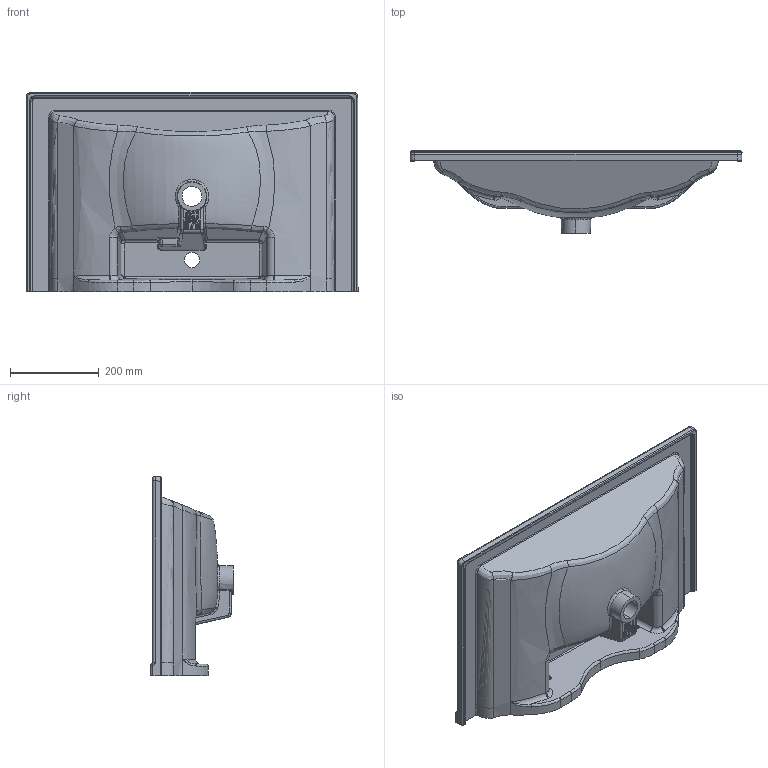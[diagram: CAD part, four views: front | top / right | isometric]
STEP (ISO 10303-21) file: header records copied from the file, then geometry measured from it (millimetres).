
FILE_DESCRIPTION (( 'STEP AP203' ), '1' );
FILE_NAME ('SU075.STEP', '2022-04-14T12:42:16', ( '' ), ( '' ), 'SwSTEP 2.0', 'SolidWorks 2021', '' );
FILE_SCHEMA (( 'CONFIG_CONTROL_DESIGN' ));
Products named in the file (1): SU075
Bounding box: 749.98 x 187.13 x 449.72 mm (x, y, z)
Volume: 11827331.7 mm3; surface area: 1025127.4 mm2
Topology: 2 solids, 2 shells, 532 faces, 1292 edges, 759 vertices
Faces by surface type: bspline 250, cylinder 143, plane 77, torus 55, sphere 7
Entity records: 71299 total; most frequent: CARTESIAN_POINT 60618, ORIENTED_EDGE 2564, DIRECTION 1727, EDGE_CURVE 1282, VERTEX_POINT 759, AXIS2_PLACEMENT_3D 671, EDGE_LOOP 547, ADVANCED_FACE 532
